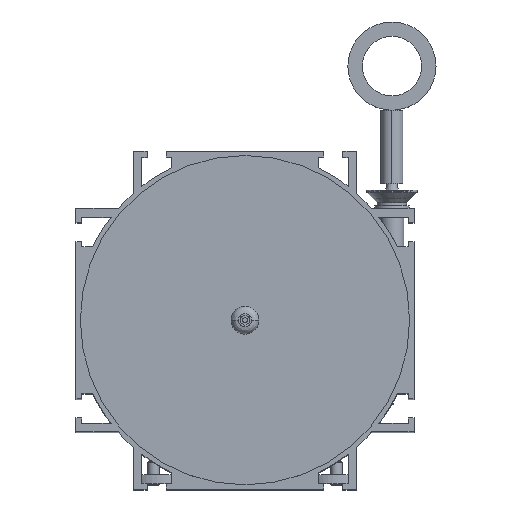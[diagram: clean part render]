
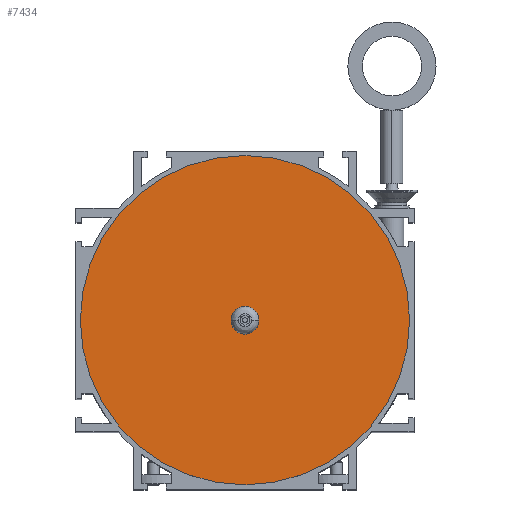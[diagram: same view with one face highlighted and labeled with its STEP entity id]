
A CAD part, top view. The second image highlights one B-rep face of the part: STEP entity #7434.
In plain terms, the highlighted planar face has unit normal (0, 0, 1).
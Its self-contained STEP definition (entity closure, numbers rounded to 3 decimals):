
#1899=CARTESIAN_POINT('',(0.,0.,148.5));
#1900=DIRECTION('',(0.,0.,1.));
#1901=DIRECTION('',(-1.,0.,0.));
#1902=AXIS2_PLACEMENT_3D('',#1899,#1900,#1901);
#1904=CARTESIAN_POINT('',(0.,0.,148.5));
#1905=DIRECTION('',(0.,0.,-1.));
#1906=DIRECTION('',(-1.,0.,0.));
#1907=AXIS2_PLACEMENT_3D('',#1904,#1905,#1906);
#1909=CARTESIAN_POINT('',(0.,0.,148.5));
#1910=DIRECTION('',(0.,0.,1.));
#1911=DIRECTION('',(-1.,0.,0.));
#1912=AXIS2_PLACEMENT_3D('',#1909,#1910,#1911);
#1914=CARTESIAN_POINT('',(0.,0.,148.5));
#1915=DIRECTION('',(0.,0.,1.));
#1916=DIRECTION('',(1.,0.,0.));
#1917=AXIS2_PLACEMENT_3D('',#1914,#1915,#1916);
#4425=CARTESIAN_POINT('',(-56.,0.,148.5));
#4426=CARTESIAN_POINT('',(56.,0.,148.5));
#4427=VERTEX_POINT('',#4425);
#4428=VERTEX_POINT('',#4426);
#4473=CARTESIAN_POINT('',(-4.75,0.,148.5));
#4474=CARTESIAN_POINT('',(4.75,0.,148.5));
#4475=VERTEX_POINT('',#4473);
#4476=VERTEX_POINT('',#4474);
#7419=CARTESIAN_POINT('',(0.,0.,148.5));
#7420=DIRECTION('',(0.,0.,-1.));
#7421=DIRECTION('',(1.,0.,0.));
#7422=AXIS2_PLACEMENT_3D('',#7419,#7420,#7421);
#7423=PLANE('',#7422);
#7424=ORIENTED_EDGE('',*,*,#7413,.F.);
#7425=ORIENTED_EDGE('',*,*,#7399,.T.);
#7426=EDGE_LOOP('',(#7424,#7425));
#7427=FACE_OUTER_BOUND('',#7426,.F.);
#7429=ORIENTED_EDGE('',*,*,#7428,.T.);
#7431=ORIENTED_EDGE('',*,*,#7430,.T.);
#7432=EDGE_LOOP('',(#7429,#7431));
#7433=FACE_BOUND('',#7432,.F.);
#1903=CIRCLE('',#1902,56.);
#1908=CIRCLE('',#1907,56.);
#1913=CIRCLE('',#1912,4.75);
#1918=CIRCLE('',#1917,4.75);
#7399=EDGE_CURVE('',#4427,#4428,#1908,.T.);
#7413=EDGE_CURVE('',#4427,#4428,#1903,.T.);
#7428=EDGE_CURVE('',#4475,#4476,#1913,.T.);
#7430=EDGE_CURVE('',#4476,#4475,#1918,.T.);
#7434=ADVANCED_FACE('',(#7427,#7433),#7423,.F.);
